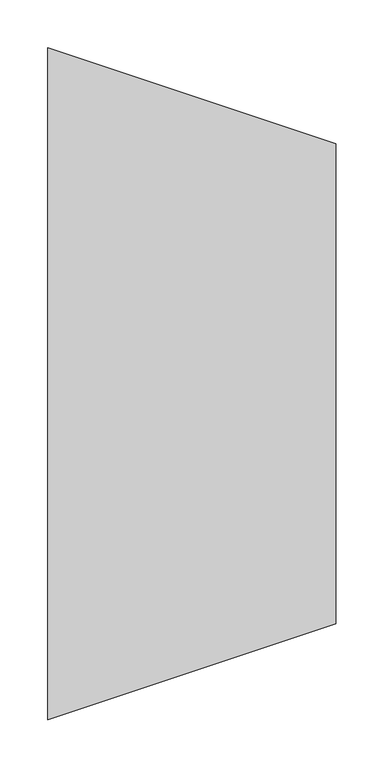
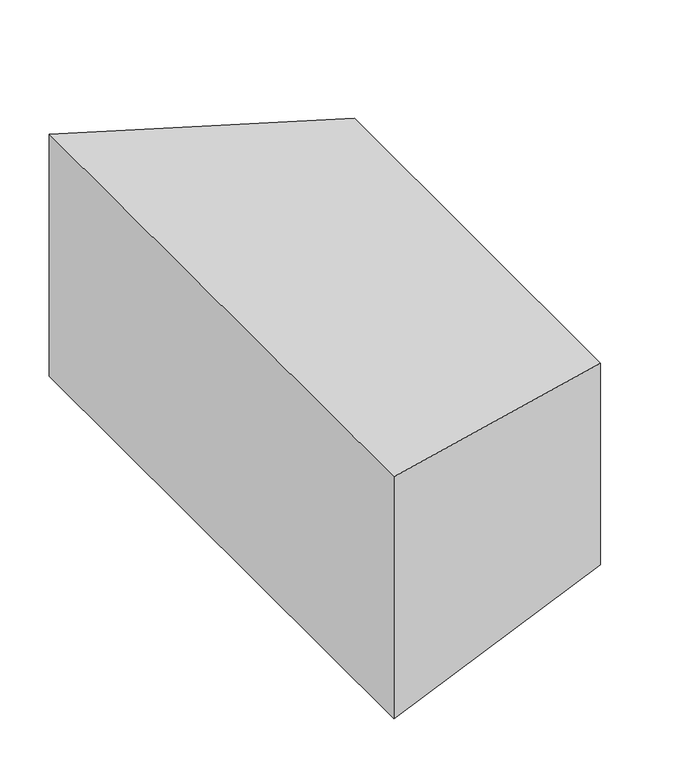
"""IFC4 building model written with IfcOpenShell, lengths in millimetres: duct fitting geometry, ADSK_ПереходникВоздуховодов_Прямоугольный1 : Стандартное 2."""

from ifc_helpers import new_model, si_unit, origin, place, context, project, spatial, faceted_brep, source, transform, mapped, element, save


def duct_fitting_04c0c715(model_context):
    return source(origin(), model_context, "Body", "Brep", [
        faceted_brep([(300.0, -250.0, 125.0), (300.0, -250.0, -125.0), (300.0, 250.0, -125.0), (300.0, 250.0, 125.0), (0.0, -350.0, 150.0), (0.0, 350.0, 150.0), (0.0, 350.0, -150.0), (0.0, -350.0, -150.0)], [[[0, 1, 2, 3]], [[4, 5, 6, 7]], [[4, 7, 1, 0]], [[7, 6, 2, 1]], [[6, 5, 3, 2]], [[5, 4, 0, 3]]]),
    ])


if __name__ == "__main__":
    model = new_model("IFC4")
    model_context = context("Model", 3, world=origin())
    ifc_project = project(units=[si_unit("LENGTHUNIT", "METRE", prefix="MILLI")], contexts=[model_context])
    site = spatial("IfcSite", under=ifc_project)
    building = spatial("IfcBuilding", under=site)
    placement = place(None, origin())
    duct_fitting_shape = duct_fitting_04c0c715(model_context)
    element("IfcDuctFitting", 1, ObjectType="ADSK_ПереходникВоздуховодов_Прямоугольный1 : Стандартное 2", at=placement, inside=building, context=model_context, shape_type="MappedRepresentation", body=[
        mapped(duct_fitting_shape, transform((0.0, 0.0, 0.0), x_axis=(1.0, 0.0, 0.0), y_axis=(0.0, 1.0, 0.0), z_axis=(0.0, 0.0, 1.0))),
    ])
    save(model, "model.ifc")
